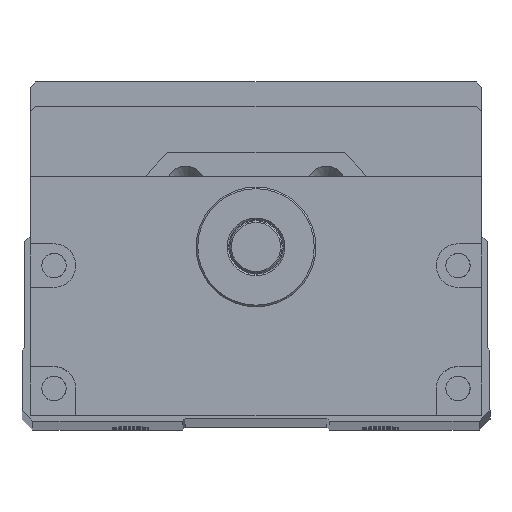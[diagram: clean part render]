
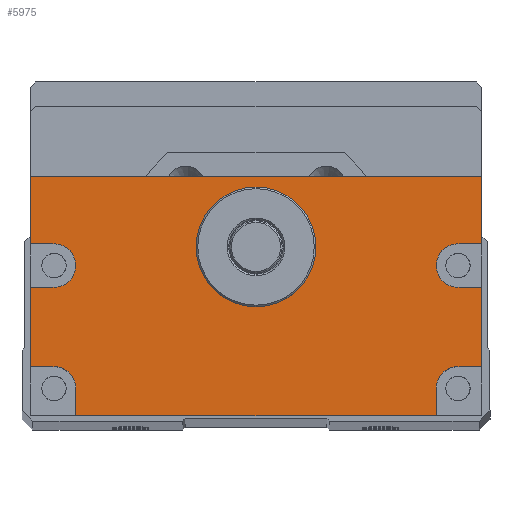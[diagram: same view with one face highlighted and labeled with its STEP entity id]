
A CAD part, top view. The second image highlights one B-rep face of the part: STEP entity #5975.
In plain terms, the highlighted planar face has unit normal (0, 0, 1).
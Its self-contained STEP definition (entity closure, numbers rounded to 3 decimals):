
#5975=ADVANCED_FACE('',(#8262,#8263),#6490,.T.);
#6490=PLANE('',#15790);
#6895=LINE('',#28953,#7581);
#6897=LINE('',#28957,#7583);
#6898=LINE('',#28960,#7584);
#6899=LINE('',#28962,#7585);
#6900=LINE('',#28966,#7586);
#6901=LINE('',#28968,#7587);
#6902=LINE('',#28969,#7588);
#6903=LINE('',#28971,#7589);
#6904=LINE('',#28975,#7590);
#6905=LINE('',#28977,#7591);
#6906=LINE('',#28979,#7592);
#6907=LINE('',#28983,#7593);
#6908=LINE('',#28985,#7594);
#6909=LINE('',#28987,#7595);
#7581=VECTOR('',#17356,1.);
#7583=VECTOR('',#17360,1.);
#7584=VECTOR('',#17361,1.);
#7585=VECTOR('',#17362,1.);
#7586=VECTOR('',#17365,1.);
#7587=VECTOR('',#17366,1.);
#7588=VECTOR('',#17367,1.);
#7589=VECTOR('',#17368,1.);
#7590=VECTOR('',#17371,1.);
#7591=VECTOR('',#17372,1.);
#7592=VECTOR('',#17373,1.);
#7593=VECTOR('',#17376,1.);
#7594=VECTOR('',#17377,1.);
#7595=VECTOR('',#17378,1.);
#8262=FACE_BOUND('',#8897,.T.);
#8263=FACE_BOUND('',#8898,.T.);
#8897=EDGE_LOOP('',(#10441,#10442,#10443,#10444,#10445,#10446,#10447,#10448,
#10449,#10450,#10451,#10452,#10453,#10454,#10455,#10456,#10457,#10458));
#8898=EDGE_LOOP('',(#10459));
#10441=ORIENTED_EDGE('',*,*,#13999,.F.);
#10442=ORIENTED_EDGE('',*,*,#14000,.T.);
#10443=ORIENTED_EDGE('',*,*,#14001,.F.);
#10444=ORIENTED_EDGE('',*,*,#14002,.F.);
#10445=ORIENTED_EDGE('',*,*,#14003,.F.);
#10446=ORIENTED_EDGE('',*,*,#14004,.T.);
#10447=ORIENTED_EDGE('',*,*,#13997,.T.);
#10448=ORIENTED_EDGE('',*,*,#14005,.T.);
#10449=ORIENTED_EDGE('',*,*,#14006,.F.);
#10450=ORIENTED_EDGE('',*,*,#14007,.F.);
#10451=ORIENTED_EDGE('',*,*,#14008,.F.);
#10452=ORIENTED_EDGE('',*,*,#14009,.T.);
#10453=ORIENTED_EDGE('',*,*,#14010,.F.);
#10454=ORIENTED_EDGE('',*,*,#14011,.F.);
#10455=ORIENTED_EDGE('',*,*,#14012,.F.);
#10456=ORIENTED_EDGE('',*,*,#14013,.T.);
#10457=ORIENTED_EDGE('',*,*,#14014,.F.);
#10458=ORIENTED_EDGE('',*,*,#14015,.F.);
#10459=ORIENTED_EDGE('',*,*,#13983,.T.);
#12797=VERTEX_POINT('',#28924);
#12810=VERTEX_POINT('',#28952);
#12811=VERTEX_POINT('',#28954);
#12812=VERTEX_POINT('',#28958);
#12813=VERTEX_POINT('',#28959);
#12814=VERTEX_POINT('',#28961);
#12815=VERTEX_POINT('',#28963);
#12816=VERTEX_POINT('',#28965);
#12817=VERTEX_POINT('',#28967);
#12818=VERTEX_POINT('',#28970);
#12819=VERTEX_POINT('',#28972);
#12820=VERTEX_POINT('',#28974);
#12821=VERTEX_POINT('',#28976);
#12822=VERTEX_POINT('',#28978);
#12823=VERTEX_POINT('',#28980);
#12824=VERTEX_POINT('',#28982);
#12825=VERTEX_POINT('',#28984);
#12826=VERTEX_POINT('',#28986);
#12827=VERTEX_POINT('',#28988);
#13983=EDGE_CURVE('',#12797,#12797,#15150,.T.);
#13997=EDGE_CURVE('',#12811,#12810,#6895,.T.);
#13999=EDGE_CURVE('',#12812,#12813,#6897,.T.);
#14000=EDGE_CURVE('',#12812,#12814,#6898,.T.);
#14001=EDGE_CURVE('',#12815,#12814,#6899,.T.);
#14002=EDGE_CURVE('',#12816,#12815,#15159,.T.);
#14003=EDGE_CURVE('',#12817,#12816,#6900,.T.);
#14004=EDGE_CURVE('',#12817,#12811,#6901,.T.);
#14005=EDGE_CURVE('',#12810,#12818,#6902,.T.);
#14006=EDGE_CURVE('',#12819,#12818,#6903,.T.);
#14007=EDGE_CURVE('',#12820,#12819,#15160,.T.);
#14008=EDGE_CURVE('',#12821,#12820,#6904,.T.);
#14009=EDGE_CURVE('',#12821,#12822,#6905,.T.);
#14010=EDGE_CURVE('',#12823,#12822,#6906,.T.);
#14011=EDGE_CURVE('',#12824,#12823,#15161,.T.);
#14012=EDGE_CURVE('',#12825,#12824,#6907,.T.);
#14013=EDGE_CURVE('',#12825,#12826,#6908,.T.);
#14014=EDGE_CURVE('',#12827,#12826,#6909,.T.);
#14015=EDGE_CURVE('',#12813,#12827,#15162,.T.);
#15150=CIRCLE('',#15774,11.);
#15159=CIRCLE('',#15786,4.);
#15160=CIRCLE('',#15787,4.);
#15161=CIRCLE('',#15788,4.);
#15162=CIRCLE('',#15789,4.);
#15774=AXIS2_PLACEMENT_3D('',#28923,#17329,#17330);
#15786=AXIS2_PLACEMENT_3D('',#28964,#17363,#17364);
#15787=AXIS2_PLACEMENT_3D('',#28973,#17369,#17370);
#15788=AXIS2_PLACEMENT_3D('',#28981,#17374,#17375);
#15789=AXIS2_PLACEMENT_3D('',#28989,#17379,#17380);
#15790=AXIS2_PLACEMENT_3D('',#28990,#17381,#17382);
#17329=DIRECTION('',(0.,0.,-1.));
#17330=DIRECTION('',(1.,0.,0.));
#17356=DIRECTION('',(-1.,0.,0.));
#17360=DIRECTION('',(-1.,0.,0.));
#17361=DIRECTION('',(0.,1.,0.));
#17362=DIRECTION('',(1.,0.,0.));
#17363=DIRECTION('',(0.,0.,1.));
#17364=DIRECTION('',(1.,0.,0.));
#17365=DIRECTION('',(-1.,0.,0.));
#17366=DIRECTION('',(0.,1.,0.));
#17367=DIRECTION('',(0.,-1.,0.));
#17368=DIRECTION('',(-1.,0.,0.));
#17369=DIRECTION('',(0.,0.,1.));
#17370=DIRECTION('',(1.,0.,0.));
#17371=DIRECTION('',(1.,0.,0.));
#17372=DIRECTION('',(0.,-1.,0.));
#17373=DIRECTION('',(-1.,0.,0.));
#17374=DIRECTION('',(0.,0.,1.));
#17375=DIRECTION('',(1.,0.,0.));
#17376=DIRECTION('',(0.,1.,0.));
#17377=DIRECTION('',(1.,0.,0.));
#17378=DIRECTION('',(0.,-1.,0.));
#17379=DIRECTION('',(0.,0.,1.));
#17380=DIRECTION('',(1.,0.,0.));
#17381=DIRECTION('',(0.,0.,1.));
#17382=DIRECTION('',(1.,0.,0.));
#28923=CARTESIAN_POINT('',(0.,0.,782.5));
#28924=CARTESIAN_POINT('',(11.,0.,782.5));
#28952=CARTESIAN_POINT('',(-41.5,13.,782.5));
#28953=CARTESIAN_POINT('',(41.5,13.,782.5));
#28954=CARTESIAN_POINT('',(41.5,13.,782.5));
#28957=CARTESIAN_POINT('',(41.5,-22.,782.5));
#28958=CARTESIAN_POINT('',(41.5,-22.,782.5));
#28959=CARTESIAN_POINT('',(37.115,-22.,782.5));
#28960=CARTESIAN_POINT('',(41.5,-31.,782.5));
#28961=CARTESIAN_POINT('',(41.5,-7.431,782.5));
#28962=CARTESIAN_POINT('',(41.5,-7.431,782.5));
#28963=CARTESIAN_POINT('',(37.115,-7.431,782.5));
#28964=CARTESIAN_POINT('',(37.115,-3.431,782.5));
#28965=CARTESIAN_POINT('',(37.115,0.569,782.5));
#28966=CARTESIAN_POINT('',(41.5,0.569,782.5));
#28967=CARTESIAN_POINT('',(41.5,0.569,782.5));
#28968=CARTESIAN_POINT('',(41.5,-31.,782.5));
#28969=CARTESIAN_POINT('',(-41.5,27.5,782.5));
#28970=CARTESIAN_POINT('',(-41.5,0.569,782.5));
#28971=CARTESIAN_POINT('',(41.5,0.569,782.5));
#28972=CARTESIAN_POINT('',(-37.115,0.569,782.5));
#28973=CARTESIAN_POINT('',(-37.115,-3.431,782.5));
#28974=CARTESIAN_POINT('',(-37.115,-7.431,782.5));
#28975=CARTESIAN_POINT('',(41.5,-7.431,782.5));
#28976=CARTESIAN_POINT('',(-41.5,-7.431,782.5));
#28977=CARTESIAN_POINT('',(-41.5,27.5,782.5));
#28978=CARTESIAN_POINT('',(-41.5,-22.,782.5));
#28979=CARTESIAN_POINT('',(41.5,-22.,782.5));
#28980=CARTESIAN_POINT('',(-37.115,-22.,782.5));
#28981=CARTESIAN_POINT('',(-37.115,-26.,782.5));
#28982=CARTESIAN_POINT('',(-33.115,-26.,782.5));
#28983=CARTESIAN_POINT('',(-33.115,-31.,782.5));
#28984=CARTESIAN_POINT('',(-33.115,-31.,782.5));
#28985=CARTESIAN_POINT('',(-41.5,-31.,782.5));
#28986=CARTESIAN_POINT('',(33.115,-31.,782.5));
#28987=CARTESIAN_POINT('',(33.115,-31.,782.5));
#28988=CARTESIAN_POINT('',(33.115,-26.,782.5));
#28989=CARTESIAN_POINT('',(37.115,-26.,782.5));
#28990=CARTESIAN_POINT('',(41.5,-31.,782.5));
